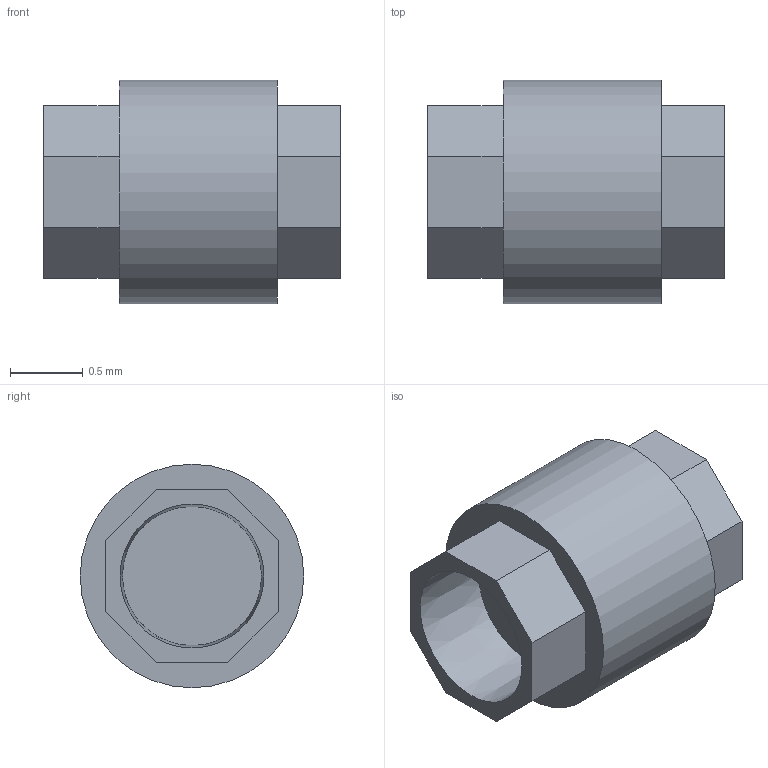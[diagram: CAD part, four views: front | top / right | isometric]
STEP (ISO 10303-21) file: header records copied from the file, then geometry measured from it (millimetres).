
FILE_DESCRIPTION(('Open CASCADE Model'),'2;1');
FILE_NAME('Open CASCADE Shape Model','2021-09-28T16:12:38',('Author'),( 'Open CASCADE'),'Open CASCADE STEP processor 7.3','Open CASCADE 7.3' ,'Unknown');
FILE_SCHEMA(('AUTOMOTIVE_DESIGN { 1 0 10303 214 1 1 1 1 }'));
Length unit declared in the file: millimetre
Products named in the file (26): Open CASCADE STEP translator 7.3 1; Open CASCADE STEP translator 7.3 1.1; Open CASCADE STEP translator 7.3 1.2; Open CASCADE STEP translator 7.3 1.3; Open CASCADE STEP translator 7.3 1.4; Open CASCADE STEP translator 7.3 1.5; Open CASCADE STEP translator 7.3 1.6; Open CASCADE STEP translator 7.3 1.7; Open CASCADE STEP translator 7.3 1.8; Open CASCADE STEP translator 7.3 1.9; Open CASCADE STEP translator 7.3 1.10; Open CASCADE STEP translator 7.3 1.11; Open CASCADE STEP translator 7.3 1.12; Open CASCADE STEP translator 7.3 1.13; Open CASCADE STEP translator 7.3 1.14; Open CASCADE STEP translator 7.3 1.15; Open CASCADE STEP translator 7.3 1.16; Open CASCADE STEP translator 7.3 1.17; Open CASCADE STEP translator 7.3 1.18; Open CASCADE STEP translator 7.3 1.19; Open CASCADE STEP translator 7.3 1.20; Open CASCADE STEP translator 7.3 1.21; Open CASCADE STEP translator 7.3 1.22; Open CASCADE STEP translator 7.3 1.23; Open CASCADE STEP translator 7.3 1.24; Open CASCADE STEP translator 7.3 1.25
Assembly tree (25 placements, depth 2):
  Open CASCADE STEP translator 7.3 1
    Open CASCADE STEP translator 7.3 1.1
    Open CASCADE STEP translator 7.3 1.2
    Open CASCADE STEP translator 7.3 1.3
    Open CASCADE STEP translator 7.3 1.4
    Open CASCADE STEP translator 7.3 1.5
    Open CASCADE STEP translator 7.3 1.6
    Open CASCADE STEP translator 7.3 1.7
    Open CASCADE STEP translator 7.3 1.8
    Open CASCADE STEP translator 7.3 1.9
    Open CASCADE STEP translator 7.3 1.10
    Open CASCADE STEP translator 7.3 1.11
    Open CASCADE STEP translator 7.3 1.12
    Open CASCADE STEP translator 7.3 1.13
    Open CASCADE STEP translator 7.3 1.14
    Open CASCADE STEP translator 7.3 1.15
    Open CASCADE STEP translator 7.3 1.16
    Open CASCADE STEP translator 7.3 1.17
    Open CASCADE STEP translator 7.3 1.18
    Open CASCADE STEP translator 7.3 1.19
    Open CASCADE STEP translator 7.3 1.20
    Open CASCADE STEP translator 7.3 1.21
    Open CASCADE STEP translator 7.3 1.22
    Open CASCADE STEP translator 7.3 1.23
    Open CASCADE STEP translator 7.3 1.24
    Open CASCADE STEP translator 7.3 1.25
Bounding box: 2.04 x 1.53 x 1.53 mm (x, y, z)
Surface area: 16 mm2 (no closed solid volume)
Topology: 0 solids, 25 shells, 25 faces, 111 edges, 108 vertices
Faces by surface type: plane 22, cone 2, cylinder 1
Full cylindrical faces by diameter (mm): 1.535 x1
Entity records: 2425 total; most frequent: CARTESIAN_POINT 411, DIRECTION 332, LINE 204, VECTOR 204, ORIENTED_EDGE 114, PCURVE 114, DEFINITIONAL_REPRESENTATION 114, EDGE_CURVE 111
